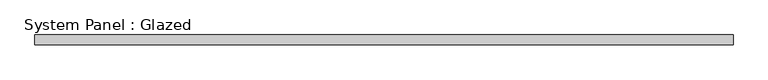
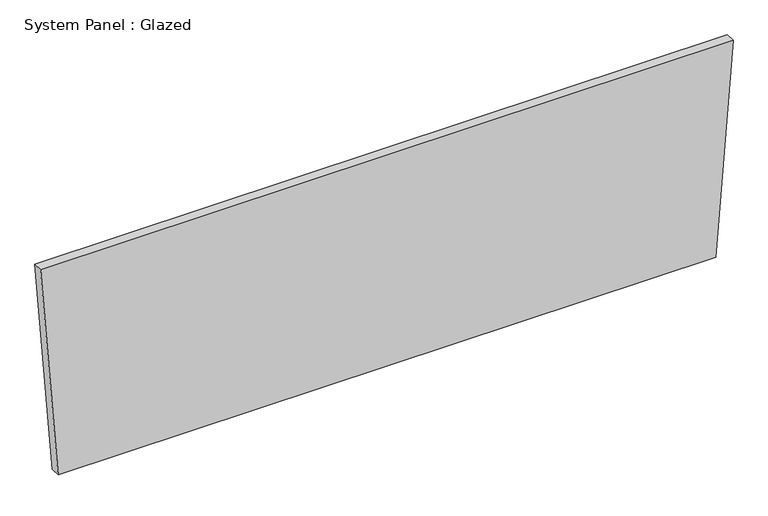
"""IFC4 building model written with IfcOpenShell, lengths in millimetres: plate geometry, System Panel : Glazed."""

from ifc_helpers import new_model, si_unit, frame, origin, place, context, project, spatial, polyline, outline, extrude, source, transform, mapped, element, save


def system_panel_glazed_82596321(model_context):
    return source(origin(), model_context, "Body", "SweptSolid", [
        extrude(outline(polyline([(0.0, -858.7313408), (0.0, 858.7313408), (582.3327757, 904.4150628), (582.3327757, -904.4150628), (0.0, -858.7313408)])), frame((0.0, 19.05, 0.0), z_axis=(0.0, 1.0, 0.0), x_axis=(0.0, 0.0, 1.0)), (0.0, 0.0, 1.0), 25.4),
    ])


if __name__ == "__main__":
    model = new_model("IFC4")
    model_context = context("Model", 3, world=origin())
    ifc_project = project(units=[si_unit("LENGTHUNIT", "METRE", prefix="MILLI")], contexts=[model_context])
    site = spatial("IfcSite", under=ifc_project)
    building = spatial("IfcBuilding", under=site)
    placement = place(None, origin())
    system_panel_glazed_shape = system_panel_glazed_82596321(model_context)
    element("IfcPlate", 1, ObjectType="System Panel : Glazed", at=placement, inside=building, context=model_context, shape_type="MappedRepresentation", body=[
        mapped(system_panel_glazed_shape, transform((0.0, 0.0, 0.0), x_axis=(1.0, 0.0, 0.0), y_axis=(0.0, 1.0, 0.0), z_axis=(0.0, 0.0, 1.0))),
    ])
    save(model, "model.ifc")
